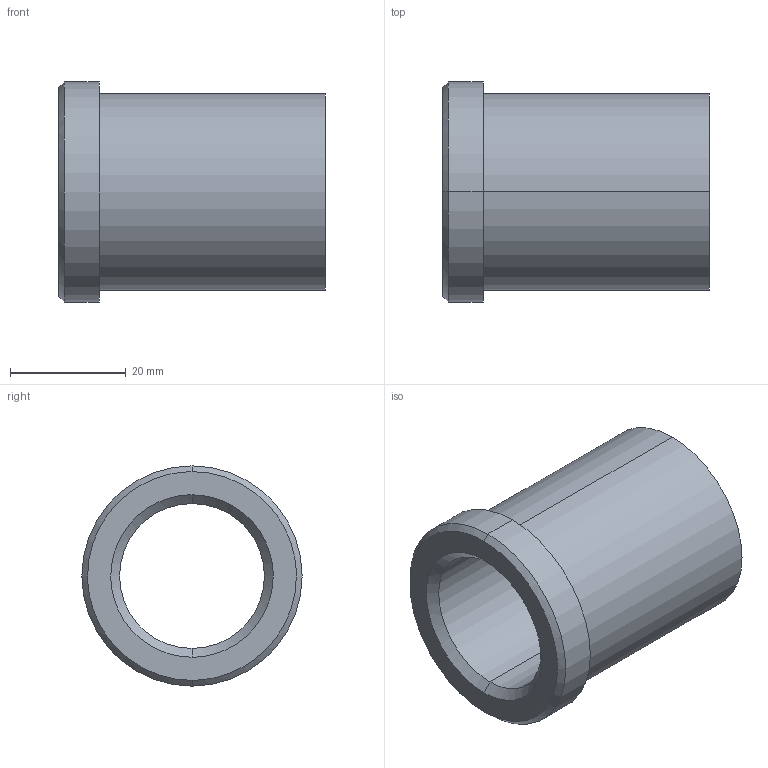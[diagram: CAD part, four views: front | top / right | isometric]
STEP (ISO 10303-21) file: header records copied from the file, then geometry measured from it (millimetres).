
FILE_DESCRIPTION(('CATIA V5 STEP Exchange'),'2;1');
FILE_NAME('C:\Users\Utente\Desktop\IO LAVORO\3D X SITO CF\X SITO\PLASTICA\353\353-25X46.stp','2021-05-12T18:45:49+00:00',('none'),('none'),'CATIA Version 5 Release 20 GA (IN-10)','CATIA V5 STEP AP203','none');
FILE_SCHEMA(('CONFIG_CONTROL_DESIGN'));
Length unit declared in the file: millimetre
Products named in the file (1): 353-25X46
Bounding box: 46 x 38 x 38 mm (x, y, z)
Volume: 20547.1 mm3; surface area: 9697.8 mm2
Topology: 1 solids, 1 shells, 15 faces, 48 edges, 36 vertices
Faces by surface type: cylinder 6, cone 4, plane 3, torus 2
Entity records: 680 total; most frequent: CARTESIAN_POINT 212, ORIENTED_EDGE 96, DIRECTION 70, EDGE_CURVE 48, AXIS2_PLACEMENT_3D 46, VERTEX_POINT 36, CIRCLE 30, EDGE_LOOP 18
